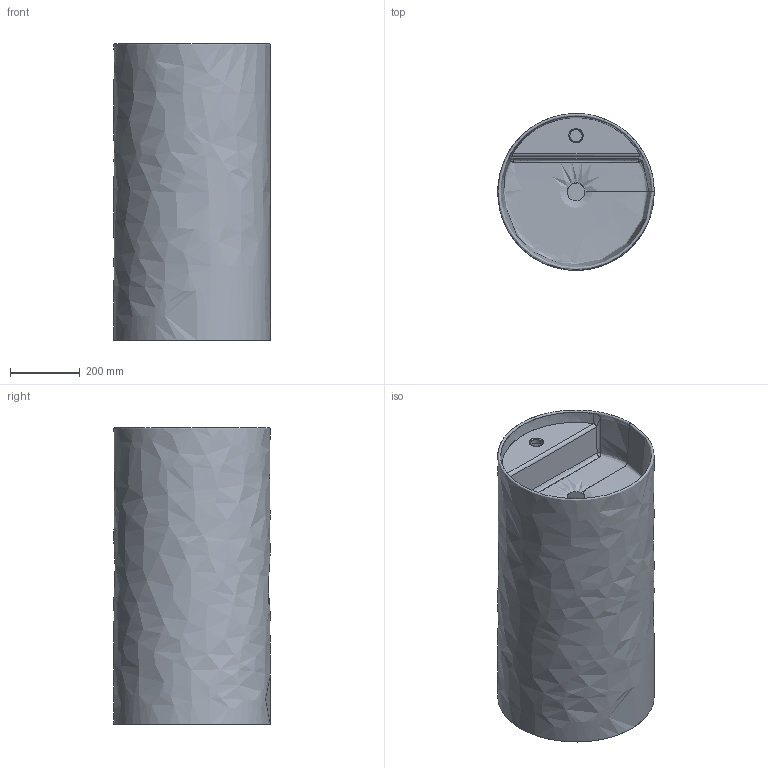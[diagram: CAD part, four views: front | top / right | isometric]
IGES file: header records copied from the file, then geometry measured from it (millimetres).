
Global section: file name: C:\Users\DE NITTO FULVIO\Desktop\Nic\2017\Maggio\Collezione Ovvio\Ovvio Freestanding con rubinetto\Modello 3D\Freestanding con Rubinetto.igs; native system: Rhinoceros ( Oct 24 2012 ); preprocessor: Trout Lake IGES 012 Oct 24 2012; date: 170505.152423; units: millimetre
Bounding box: 448 x 448 x 850 mm (x, y, z)
Surface area: 1777398.5 mm2 (no closed solid volume)
Topology: 0 solids, 0 shells, 16 faces, 170 edges, 162 vertices
Faces by surface type: bspline 16
